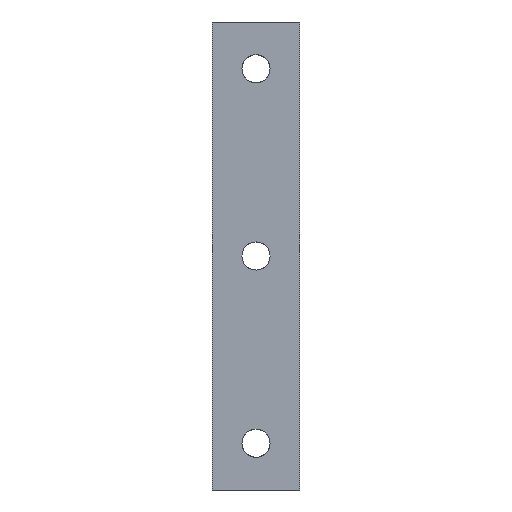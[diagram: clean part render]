
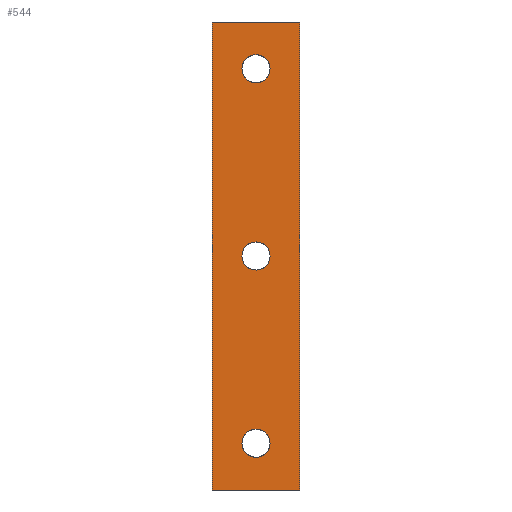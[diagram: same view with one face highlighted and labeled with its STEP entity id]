
A CAD part, front view. The second image highlights one B-rep face of the part: STEP entity #544.
In plain terms, the highlighted face is a extrusion surface.
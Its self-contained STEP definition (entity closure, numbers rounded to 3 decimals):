
#397=CARTESIAN_POINT('Control Point',(-28.,0.,0.)) ;
#398=CARTESIAN_POINT('Control Point',(-28.,0.,-150.)) ;
#402=CARTESIAN_POINT('Line Origine',(-14.,0.,-150.)) ;
#406=CARTESIAN_POINT('Vertex',(-28.,0.,-150.)) ;
#408=CARTESIAN_POINT('Vertex',(0.,0.,-150.)) ;
#411=CARTESIAN_POINT('Line Origine',(0.,0.,-75.)) ;
#415=CARTESIAN_POINT('Vertex',(0.,0.,0.)) ;
#418=CARTESIAN_POINT('Line Origine',(-14.,0.,0.)) ;
#422=CARTESIAN_POINT('Vertex',(-28.,0.,0.)) ;
#425=CARTESIAN_POINT('Line Origine',(-28.,0.,-75.)) ;
#437=CARTESIAN_POINT('Control Point',(-9.5,0.,-75.)) ;
#438=CARTESIAN_POINT('Control Point',(-9.5,0.,-76.247)) ;
#439=CARTESIAN_POINT('Control Point',(-9.932,0.,-77.494)) ;
#440=CARTESIAN_POINT('Control Point',(-10.8,0.,-78.539)) ;
#441=CARTESIAN_POINT('Control Point',(-12.71,0.,-79.63)) ;
#442=CARTESIAN_POINT('Control Point',(-14.841,0.,-79.54)) ;
#443=CARTESIAN_POINT('Control Point',(-15.671,0.,-79.305)) ;
#444=CARTESIAN_POINT('Control Point',(-17.085,0.,-78.511)) ;
#445=CARTESIAN_POINT('Control Point',(-18.032,0.,-77.204)) ;
#446=CARTESIAN_POINT('Control Point',(-18.344,0.,-76.498)) ;
#447=CARTESIAN_POINT('Control Point',(-18.5,0.,-75.749)) ;
#448=CARTESIAN_POINT('Control Point',(-18.5,0.,-75.)) ;
#449=CARTESIAN_POINT('Vertex',(-9.5,0.,-75.)) ;
#451=CARTESIAN_POINT('Vertex',(-18.5,0.,-75.)) ;
#455=CARTESIAN_POINT('Control Point',(-18.5,0.,-75.)) ;
#456=CARTESIAN_POINT('Control Point',(-18.5,0.,-73.753)) ;
#457=CARTESIAN_POINT('Control Point',(-18.068,0.,-72.506)) ;
#458=CARTESIAN_POINT('Control Point',(-17.2,0.,-71.461)) ;
#459=CARTESIAN_POINT('Control Point',(-15.29,0.,-70.37)) ;
#460=CARTESIAN_POINT('Control Point',(-13.159,0.,-70.46)) ;
#461=CARTESIAN_POINT('Control Point',(-12.329,0.,-70.695)) ;
#462=CARTESIAN_POINT('Control Point',(-10.915,0.,-71.489)) ;
#463=CARTESIAN_POINT('Control Point',(-9.968,0.,-72.796)) ;
#464=CARTESIAN_POINT('Control Point',(-9.656,0.,-73.502)) ;
#465=CARTESIAN_POINT('Control Point',(-9.5,0.,-74.251)) ;
#466=CARTESIAN_POINT('Control Point',(-9.5,0.,-75.)) ;
#473=CARTESIAN_POINT('Control Point',(-9.5,0.,-135.)) ;
#474=CARTESIAN_POINT('Control Point',(-9.5,0.,-136.247)) ;
#475=CARTESIAN_POINT('Control Point',(-9.932,0.,-137.494)) ;
#476=CARTESIAN_POINT('Control Point',(-10.8,0.,-138.539)) ;
#477=CARTESIAN_POINT('Control Point',(-12.71,0.,-139.63)) ;
#478=CARTESIAN_POINT('Control Point',(-14.841,0.,-139.54)) ;
#479=CARTESIAN_POINT('Control Point',(-15.671,0.,-139.305)) ;
#480=CARTESIAN_POINT('Control Point',(-17.085,0.,-138.511)) ;
#481=CARTESIAN_POINT('Control Point',(-18.032,0.,-137.204)) ;
#482=CARTESIAN_POINT('Control Point',(-18.344,0.,-136.498)) ;
#483=CARTESIAN_POINT('Control Point',(-18.5,0.,-135.749)) ;
#484=CARTESIAN_POINT('Control Point',(-18.5,0.,-135.)) ;
#485=CARTESIAN_POINT('Vertex',(-9.5,0.,-135.)) ;
#487=CARTESIAN_POINT('Vertex',(-18.5,0.,-135.)) ;
#491=CARTESIAN_POINT('Control Point',(-18.5,0.,-135.)) ;
#492=CARTESIAN_POINT('Control Point',(-18.5,0.,-133.753)) ;
#493=CARTESIAN_POINT('Control Point',(-18.068,0.,-132.506)) ;
#494=CARTESIAN_POINT('Control Point',(-17.2,0.,-131.461)) ;
#495=CARTESIAN_POINT('Control Point',(-15.29,0.,-130.37)) ;
#496=CARTESIAN_POINT('Control Point',(-13.159,0.,-130.46)) ;
#497=CARTESIAN_POINT('Control Point',(-12.329,0.,-130.695)) ;
#498=CARTESIAN_POINT('Control Point',(-10.915,0.,-131.489)) ;
#499=CARTESIAN_POINT('Control Point',(-9.968,0.,-132.796)) ;
#500=CARTESIAN_POINT('Control Point',(-9.656,0.,-133.502)) ;
#501=CARTESIAN_POINT('Control Point',(-9.5,0.,-134.251)) ;
#502=CARTESIAN_POINT('Control Point',(-9.5,0.,-135.)) ;
#509=CARTESIAN_POINT('Control Point',(-9.5,0.,-15.)) ;
#510=CARTESIAN_POINT('Control Point',(-9.5,0.,-16.247)) ;
#511=CARTESIAN_POINT('Control Point',(-9.932,0.,-17.494)) ;
#512=CARTESIAN_POINT('Control Point',(-10.8,0.,-18.539)) ;
#513=CARTESIAN_POINT('Control Point',(-12.71,0.,-19.63)) ;
#514=CARTESIAN_POINT('Control Point',(-14.841,0.,-19.54)) ;
#515=CARTESIAN_POINT('Control Point',(-15.671,0.,-19.305)) ;
#516=CARTESIAN_POINT('Control Point',(-17.085,0.,-18.511)) ;
#517=CARTESIAN_POINT('Control Point',(-18.032,0.,-17.204)) ;
#518=CARTESIAN_POINT('Control Point',(-18.344,0.,-16.498)) ;
#519=CARTESIAN_POINT('Control Point',(-18.5,0.,-15.749)) ;
#520=CARTESIAN_POINT('Control Point',(-18.5,0.,-15.)) ;
#521=CARTESIAN_POINT('Vertex',(-9.5,0.,-15.)) ;
#523=CARTESIAN_POINT('Vertex',(-18.5,0.,-15.)) ;
#527=CARTESIAN_POINT('Control Point',(-18.5,0.,-15.)) ;
#528=CARTESIAN_POINT('Control Point',(-18.5,0.,-13.753)) ;
#529=CARTESIAN_POINT('Control Point',(-18.068,0.,-12.506)) ;
#530=CARTESIAN_POINT('Control Point',(-17.2,0.,-11.461)) ;
#531=CARTESIAN_POINT('Control Point',(-15.29,0.,-10.37)) ;
#532=CARTESIAN_POINT('Control Point',(-13.159,0.,-10.46)) ;
#533=CARTESIAN_POINT('Control Point',(-12.329,0.,-10.695)) ;
#534=CARTESIAN_POINT('Control Point',(-10.915,0.,-11.489)) ;
#535=CARTESIAN_POINT('Control Point',(-9.968,0.,-12.796)) ;
#536=CARTESIAN_POINT('Control Point',(-9.656,0.,-13.502)) ;
#537=CARTESIAN_POINT('Control Point',(-9.5,0.,-14.251)) ;
#538=CARTESIAN_POINT('Control Point',(-9.5,0.,-15.)) ;
#399=DIRECTION('Vector Direction',(1.,0.,0.)) ;
#403=DIRECTION('Vector Direction',(1.,0.,0.)) ;
#412=DIRECTION('Vector Direction',(0.,0.,-1.)) ;
#419=DIRECTION('Vector Direction',(1.,0.,0.)) ;
#426=DIRECTION('Vector Direction',(0.,0.,-1.)) ;
#431=ORIENTED_EDGE('',*,*,#410,.T.) ;
#432=ORIENTED_EDGE('',*,*,#417,.T.) ;
#433=ORIENTED_EDGE('',*,*,#424,.T.) ;
#434=ORIENTED_EDGE('',*,*,#429,.T.) ;
#469=ORIENTED_EDGE('',*,*,#453,.T.) ;
#470=ORIENTED_EDGE('',*,*,#467,.T.) ;
#505=ORIENTED_EDGE('',*,*,#489,.T.) ;
#506=ORIENTED_EDGE('',*,*,#503,.T.) ;
#541=ORIENTED_EDGE('',*,*,#525,.T.) ;
#542=ORIENTED_EDGE('',*,*,#539,.T.) ;
#471=FACE_BOUND('',#468,.T.) ;
#507=FACE_BOUND('',#504,.T.) ;
#543=FACE_BOUND('',#540,.T.) ;
#400=VECTOR('Extrusion Surface Vector',#399,1.) ;
#404=VECTOR('Line Direction',#403,1.) ;
#413=VECTOR('Line Direction',#412,1.) ;
#420=VECTOR('Line Direction',#419,1.) ;
#427=VECTOR('Line Direction',#426,1.) ;
#544=ADVANCED_FACE('Superficie.6',(#435,#471,#507,#543),#401,.T.) ;
#396=B_SPLINE_CURVE_WITH_KNOTS('',1,(#397,#398),.UNSPECIFIED.,.F.,.U.,(2,2),(-75.,75.),.UNSPECIFIED.) ;
#436=B_SPLINE_CURVE_WITH_KNOTS('',5,(#437,#438,#439,#440,#441,#442,#443,#444,#445,#446,#447,#448),.UNSPECIFIED.,.F.,.U.,(6,3,3,6),(0.,8.818,14.697,19.993),.UNSPECIFIED.) ;
#454=B_SPLINE_CURVE_WITH_KNOTS('',5,(#455,#456,#457,#458,#459,#460,#461,#462,#463,#464,#465,#466),.UNSPECIFIED.,.F.,.U.,(6,3,3,6),(0.,8.818,14.697,19.993),.UNSPECIFIED.) ;
#472=B_SPLINE_CURVE_WITH_KNOTS('',5,(#473,#474,#475,#476,#477,#478,#479,#480,#481,#482,#483,#484),.UNSPECIFIED.,.F.,.U.,(6,3,3,6),(0.,8.818,14.697,19.993),.UNSPECIFIED.) ;
#490=B_SPLINE_CURVE_WITH_KNOTS('',5,(#491,#492,#493,#494,#495,#496,#497,#498,#499,#500,#501,#502),.UNSPECIFIED.,.F.,.U.,(6,3,3,6),(0.,8.818,14.697,19.993),.UNSPECIFIED.) ;
#508=B_SPLINE_CURVE_WITH_KNOTS('',5,(#509,#510,#511,#512,#513,#514,#515,#516,#517,#518,#519,#520),.UNSPECIFIED.,.F.,.U.,(6,3,3,6),(0.,8.818,14.697,19.993),.UNSPECIFIED.) ;
#526=B_SPLINE_CURVE_WITH_KNOTS('',5,(#527,#528,#529,#530,#531,#532,#533,#534,#535,#536,#537,#538),.UNSPECIFIED.,.F.,.U.,(6,3,3,6),(0.,8.818,14.697,19.993),.UNSPECIFIED.) ;
#410=EDGE_CURVE('',#407,#409,#405,.T.) ;
#417=EDGE_CURVE('',#409,#416,#414,.F.) ;
#424=EDGE_CURVE('',#416,#423,#421,.F.) ;
#429=EDGE_CURVE('',#423,#407,#428,.T.) ;
#453=EDGE_CURVE('',#450,#452,#436,.T.) ;
#467=EDGE_CURVE('',#452,#450,#454,.T.) ;
#489=EDGE_CURVE('',#486,#488,#472,.T.) ;
#503=EDGE_CURVE('',#488,#486,#490,.T.) ;
#525=EDGE_CURVE('',#522,#524,#508,.T.) ;
#539=EDGE_CURVE('',#524,#522,#526,.T.) ;
#430=EDGE_LOOP('',(#431,#432,#433,#434)) ;
#468=EDGE_LOOP('',(#469,#470)) ;
#504=EDGE_LOOP('',(#505,#506)) ;
#540=EDGE_LOOP('',(#541,#542)) ;
#435=FACE_OUTER_BOUND('',#430,.T.) ;
#405=LINE('Line',#402,#404) ;
#414=LINE('Line',#411,#413) ;
#421=LINE('Line',#418,#420) ;
#428=LINE('Line',#425,#427) ;
#401=SURFACE_OF_LINEAR_EXTRUSION('generated tabulated cylinder',#396,#400) ;
#407=VERTEX_POINT('',#406) ;
#409=VERTEX_POINT('',#408) ;
#416=VERTEX_POINT('',#415) ;
#423=VERTEX_POINT('',#422) ;
#450=VERTEX_POINT('',#449) ;
#452=VERTEX_POINT('',#451) ;
#486=VERTEX_POINT('',#485) ;
#488=VERTEX_POINT('',#487) ;
#522=VERTEX_POINT('',#521) ;
#524=VERTEX_POINT('',#523) ;
